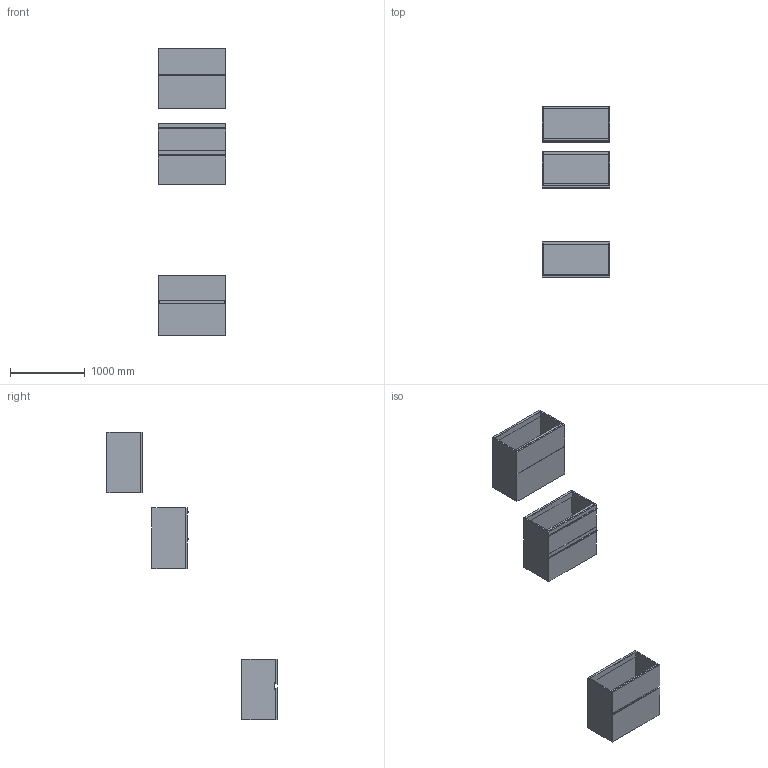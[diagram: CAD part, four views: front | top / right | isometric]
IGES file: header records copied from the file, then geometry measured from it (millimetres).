
Start section: Data from Parasolid IGES Translator 19.0.9, Copyright(c) 2006 Siemens PL M Software. All Rights Reserved.
Global section: file name: noorth-SI-H 81,2 D 47 W 90_8701.igs; native system: By Siemens PLM Incorporated; preprocessor: XPlus GENERIC/IGES 19.0.9; author: Noname; organization: Noname; date: 20200601.140330; units: metre
Bounding box: 900 x 2270 x 3842 mm (x, y, z)
Volume: 108233871.9 mm3; surface area: 16900417.2 mm2
Topology: 27 solids, 27 shells, 266 faces, 580 edges, 348 vertices
Faces by surface type: plane 182, extrusion 36, bspline 32, cylinder 16
